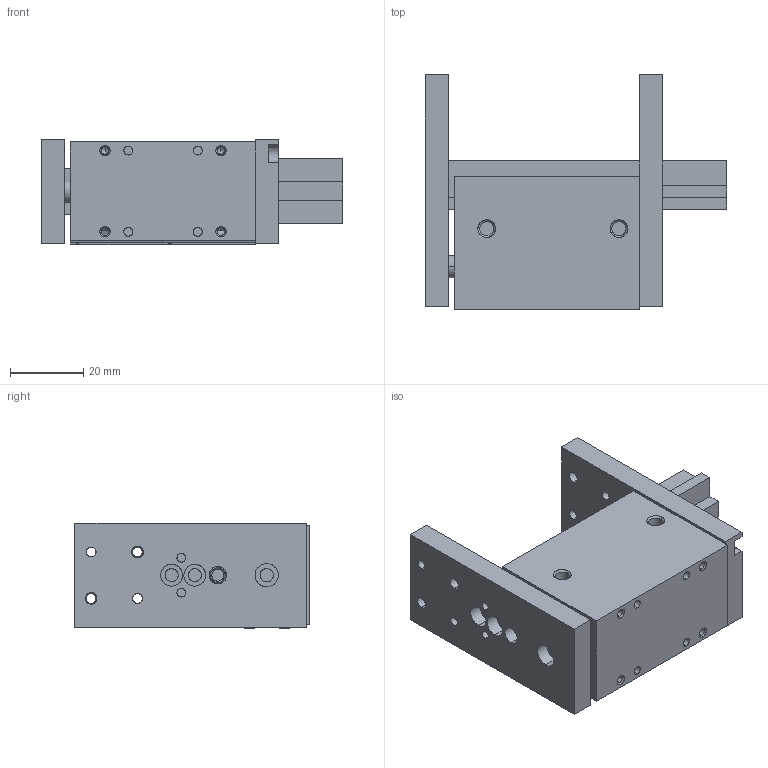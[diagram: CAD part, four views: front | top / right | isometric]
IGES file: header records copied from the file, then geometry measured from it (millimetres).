
Start section: SolidWorks IGES file using analytic representation for surfaces
Global section: file name: C:\Users\jmkuhnes\Pictures\My Transfers\AGPS\AGPS-2-2\AGPS-2-2 CLOSED in MM.IGS; native system: SolidWorks 2013; preprocessor: SolidWorks 2013; author: jmkuhnes; date: 141121.112508; units: millimetre
Bounding box: 82.55 x 64.21 x 29 mm (x, y, z)
Surface area: 30703.5 mm2 (no closed solid volume)
Topology: 0 solids, 0 shells, 308 faces, 5158 edges, 5146 vertices
Faces by surface type: revolution 179, bspline 129
